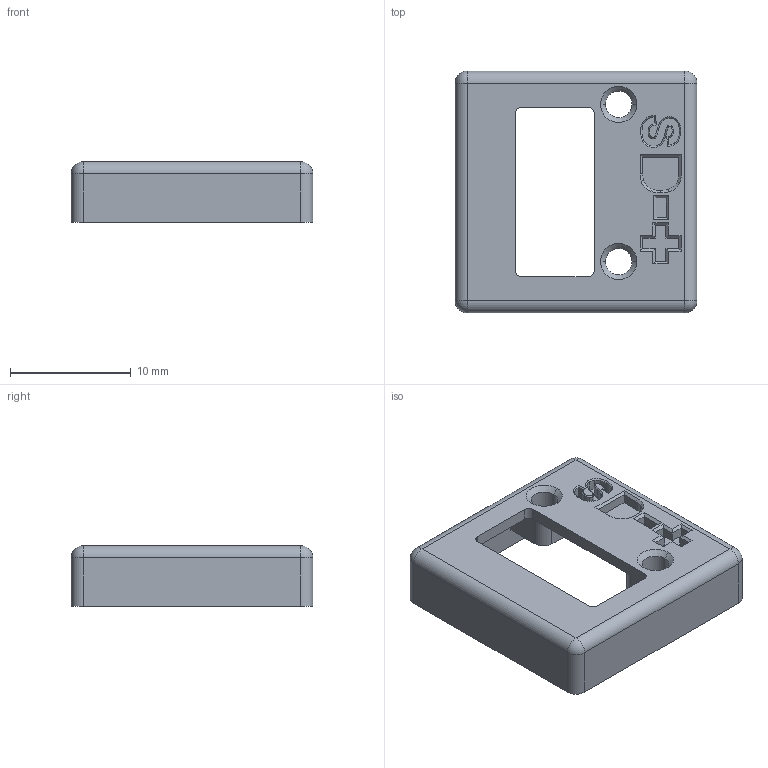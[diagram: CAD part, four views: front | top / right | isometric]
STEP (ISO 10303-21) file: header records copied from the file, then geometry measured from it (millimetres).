
FILE_DESCRIPTION((''),'2;1');
FILE_NAME('PCB00_6_GGG','2025-04-09T12:15:51',('Administrator'),(''),'CREO PARAMETRIC BY PTC INC, 2024063','CREO PARAMETRIC BY PTC INC, 2024063','');
FILE_SCHEMA(('CONFIG_CONTROL_DESIGN'));
Length unit declared in the file: millimetre
Products named in the file (1): PCB00_6_GGG
Bounding box: 20 x 20 x 5 mm (x, y, z)
Volume: 887.6 mm3; surface area: 1317.1 mm2
Topology: 1 solids, 1 shells, 183 faces, 458 edges, 275 vertices
Faces by surface type: plane 71, bspline 38, extrusion 36, cylinder 27, cone 6, sphere 4, torus 1
Entity records: 6724 total; most frequent: CARTESIAN_POINT 2664, ORIENTED_EDGE 908, DIRECTION 654, EDGE_CURVE 454, VECTOR 312, LINE 276, VERTEX_POINT 275, EDGE_LOOP 193
